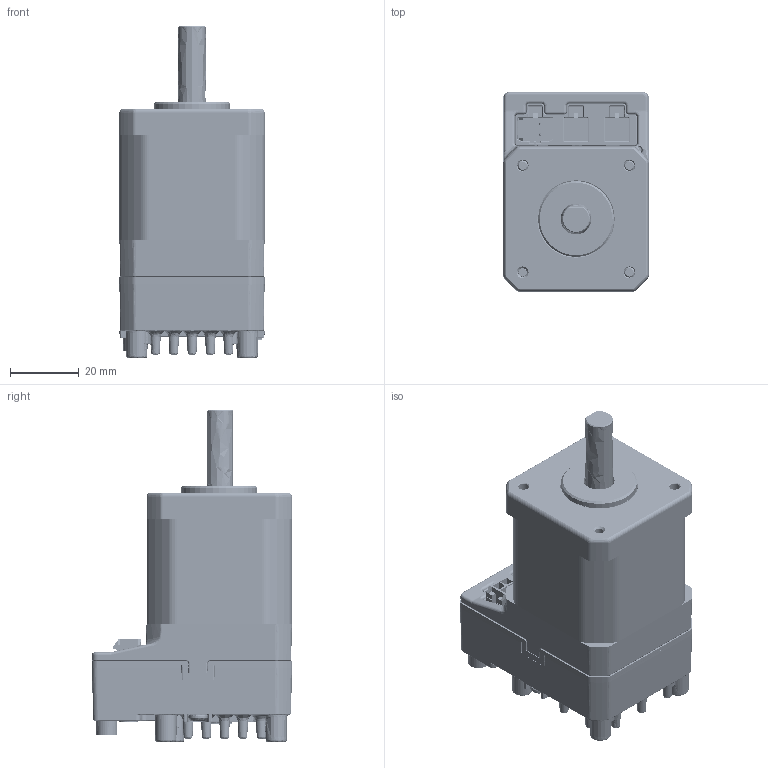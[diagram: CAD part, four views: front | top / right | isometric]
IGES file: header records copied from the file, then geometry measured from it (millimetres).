
Start section: SolidWorks IGES file using analytic representation for surfaces
Global section: file name: C:\TeknicPDM\NEMA 17 CPM\NEMA 17 Customer Facing Files\NEMA 17 CPM-EC 8mm.igs; native system: SolidWorks 2020; preprocessor: SolidWorks 2020; author: mike_berezny; date: 260811.133201; units: inch
Bounding box: 42.21 x 58.06 x 96.38 mm (x, y, z)
Surface area: 67552 mm2 (no closed solid volume)
Topology: 0 solids, 0 shells, 5179 faces, 48029 edges, 47871 vertices
Faces by surface type: bspline 3021, revolution 2158
